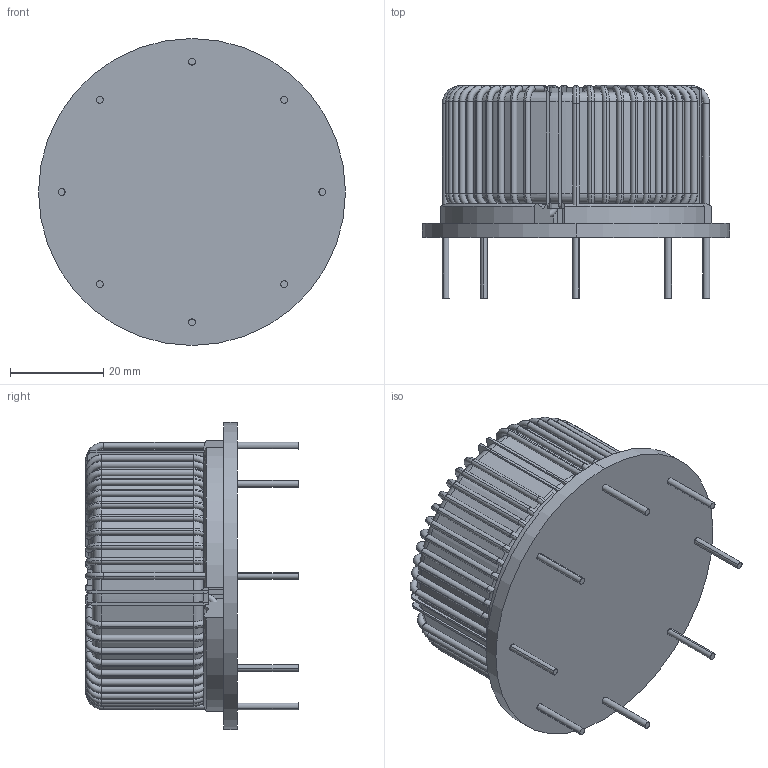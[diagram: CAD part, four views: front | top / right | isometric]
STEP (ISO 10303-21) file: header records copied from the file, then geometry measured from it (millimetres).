
FILE_DESCRIPTION (( 'STEP AP203' ), '1' );
FILE_NAME ('FPA-143U-B30A.STEP', '2020-07-21T13:19:30', ( 'Windows User' ), ( '' ), 'SwSTEP 2.0', 'SolidWorks 2015', '' );
FILE_SCHEMA (( 'CONFIG_CONTROL_DESIGN' ));
Length unit declared in the file: inch
Products named in the file (6): FPA-143U-B30A - SPACER; FPA-143U-B30A - COIL; FPA-143U-B30A; FPA-143U-B30A - EPOXY; FPA-143U-B30A - CORE; FPA-143U-B30A - FRAME
Assembly tree (5 placements, depth 2):
  FPA-143U-B30A
    FPA-143U-B30A - CORE
    FPA-143U-B30A - COIL
    FPA-143U-B30A - FRAME
    FPA-143U-B30A - SPACER
    FPA-143U-B30A - EPOXY
Bounding box: 65.96 x 45.71 x 65.96 mm (x, y, z)
Volume: 55756.6 mm3; surface area: 40840.3 mm2
Topology: 21 solids, 21 shells, 1109 faces, 2879 edges, 1810 vertices
Faces by surface type: cylinder 545, torus 396, plane 164, bspline 4
Entity records: 36187 total; most frequent: DIRECTION 6943, CARTESIAN_POINT 6866, ORIENTED_EDGE 5758, AXIS2_PLACEMENT_3D 3023, EDGE_CURVE 2879, CIRCLE 1910, VERTEX_POINT 1810, EDGE_LOOP 1125
